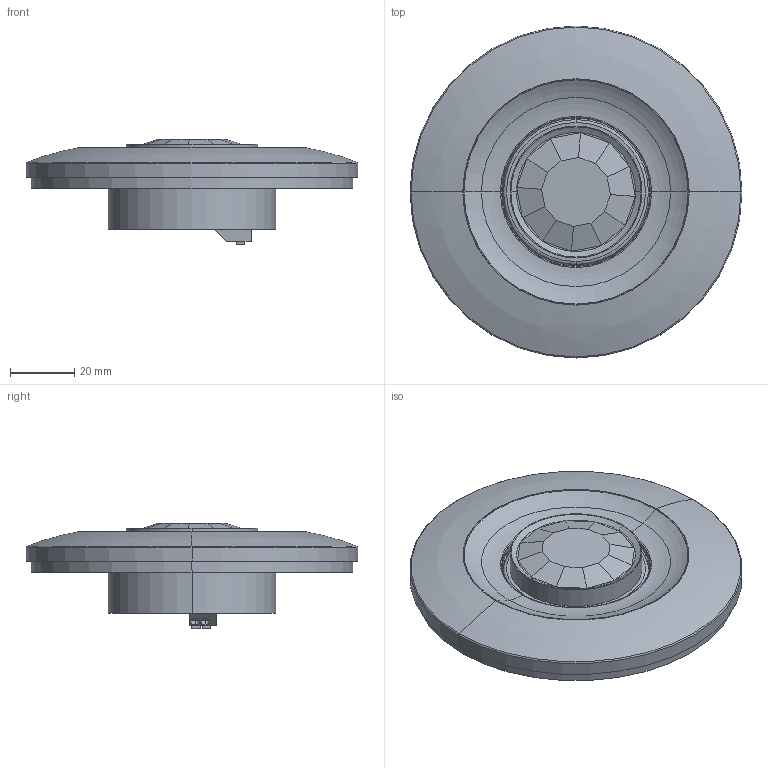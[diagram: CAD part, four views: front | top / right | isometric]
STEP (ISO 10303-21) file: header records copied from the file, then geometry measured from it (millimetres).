
FILE_DESCRIPTION((''),'2;1');
FILE_NAME('15013196Z','2019-04-24T11:02:32',('muell'),(''),'CREO PARAMETRIC BY PTC INC, 2017380','CREO PARAMETRIC BY PTC INC, 2017380','');
FILE_SCHEMA(('AUTOMOTIVE_DESIGN { 1 0 10303 214 1 1 1 1 }'));
Length unit declared in the file: millimetre
Products named in the file (1): 15013196Z
Bounding box: 103.2 x 103.2 x 32.7 mm (x, y, z)
Volume: 56096.2 mm3; surface area: 45157.3 mm2
Topology: 1 solids, 6 shells, 412 faces, 1014 edges, 643 vertices
Faces by surface type: plane 136, cylinder 132, torus 126, cone 14, bspline 4
Entity records: 18979 total; most frequent: CARTESIAN_POINT 2455, DIRECTION 2383, ORIENTED_EDGE 2028, PRESENTATION_STYLE_ASSIGNMENT 1420, AXIS2_PLACEMENT_3D 1024, STYLED_ITEM 1019, CURVE_STYLE 1014, EDGE_CURVE 1014
